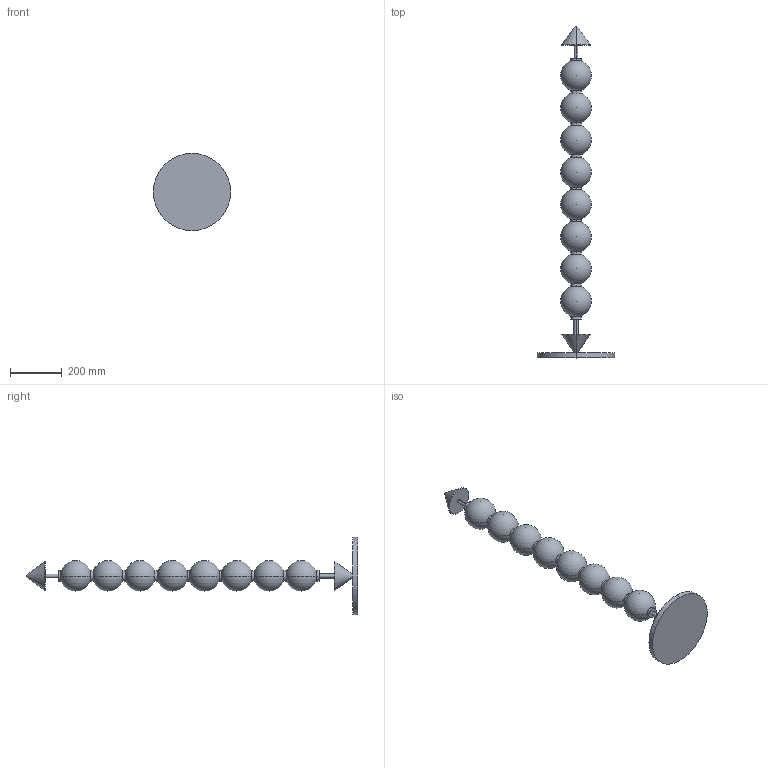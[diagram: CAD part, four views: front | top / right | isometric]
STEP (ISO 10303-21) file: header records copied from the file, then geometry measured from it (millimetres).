
FILE_DESCRIPTION (( 'STEP AP214' ), '1' );
FILE_NAME ('PIE SOKO.STEP', '2024-10-14T15:20:09', ( '' ), ( '' ), 'SwSTEP 2.0', 'SolidWorks 2018', '' );
FILE_SCHEMA (( 'AUTOMOTIVE_DESIGN' ));
Length unit declared in the file: millimetre
Products named in the file (1): PIE SOKO
Bounding box: 300 x 1287.49 x 300 mm (x, y, z)
Volume: 9356095 mm3; surface area: 620435 mm2
Topology: 22 solids, 22 shells, 80 faces, 156 edges, 104 vertices
Faces by surface type: plane 28, cylinder 24, sphere 16, torus 8, cone 4
Entity records: 2015 total; most frequent: DIRECTION 366, CARTESIAN_POINT 277, ORIENTED_EDGE 232, AXIS2_PLACEMENT_3D 169, EDGE_CURVE 116, CIRCLE 88, VERTEX_POINT 80, FACE_OUTER_BOUND 80
